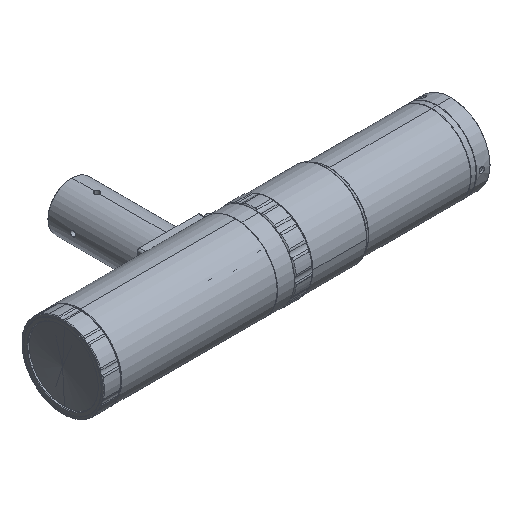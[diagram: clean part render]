
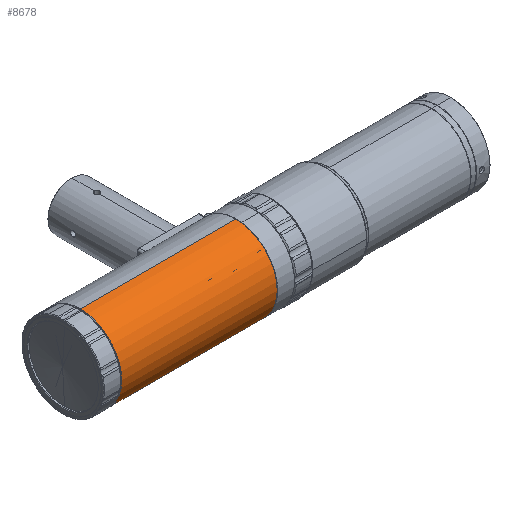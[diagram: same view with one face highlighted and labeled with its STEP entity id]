
A CAD part, isometric view. The second image highlights one B-rep face of the part: STEP entity #8678.
In plain terms, the highlighted cylindrical face has radius 19 mm (diameter 38 mm), a partial arc.
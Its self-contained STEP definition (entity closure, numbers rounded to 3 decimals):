
#77 = VECTOR ( 'NONE', #9744, 1000. ) ;
#86 = EDGE_CURVE ( 'NONE', #8816, #1531, #5522, .T. ) ;
#349 = DIRECTION ( 'NONE',  ( -1., 0., 0. ) ) ;
#363 = LINE ( 'NONE', #9832, #77 ) ;
#373 = VERTEX_POINT ( 'NONE', #2713 ) ;
#1044 = VERTEX_POINT ( 'NONE', #1988 ) ;
#1309 = CARTESIAN_POINT ( 'NONE',  ( 8.2, 0., 0. ) ) ;
#1531 = VERTEX_POINT ( 'NONE', #11500 ) ;
#1873 = AXIS2_PLACEMENT_3D ( 'NONE', #11596, #4760, #10721 ) ;
#1988 = CARTESIAN_POINT ( 'NONE',  ( 79.8, 0., -19. ) ) ;
#2146 = DIRECTION ( 'NONE',  ( -1., 0., 0. ) ) ;
#2576 = FACE_OUTER_BOUND ( 'NONE', #6514, .T. ) ;
#2713 = CARTESIAN_POINT ( 'NONE',  ( 79.8, 0., 19. ) ) ;
#4132 = AXIS2_PLACEMENT_3D ( 'NONE', #8991, #6242, #7157 ) ;
#4760 = DIRECTION ( 'NONE',  ( -1., 0., 0. ) ) ;
#5384 = CYLINDRICAL_SURFACE ( 'NONE', #4132, 19. ) ;
#5416 = LINE ( 'NONE', #6109, #8817 ) ;
#5447 = ORIENTED_EDGE ( 'NONE', *, *, #9433, .F. ) ;
#5522 = CIRCLE ( 'NONE', #5601, 19. ) ;
#5601 = AXIS2_PLACEMENT_3D ( 'NONE', #1309, #2146, #9786 ) ;
#5840 = CIRCLE ( 'NONE', #1873, 19. ) ;
#6109 = CARTESIAN_POINT ( 'NONE',  ( 79.8, 0., 19. ) ) ;
#6242 = DIRECTION ( 'NONE',  ( -1., 0., 0. ) ) ;
#6351 = CARTESIAN_POINT ( 'NONE',  ( 8.2, 0., -19. ) ) ;
#6410 = EDGE_CURVE ( 'NONE', #373, #1531, #5416, .T. ) ;
#6514 = EDGE_LOOP ( 'NONE', ( #5447, #9313, #10088, #7267 ) ) ;
#7157 = DIRECTION ( 'NONE',  ( 0., 0., 1. ) ) ;
#7267 = ORIENTED_EDGE ( 'NONE', *, *, #86, .F. ) ;
#8678 = ADVANCED_FACE ( 'NONE', ( #2576 ), #5384, .T. ) ;
#8816 = VERTEX_POINT ( 'NONE', #6351 ) ;
#8817 = VECTOR ( 'NONE', #349, 1000. ) ;
#8991 = CARTESIAN_POINT ( 'NONE',  ( 79.8, 0., 0. ) ) ;
#9313 = ORIENTED_EDGE ( 'NONE', *, *, #9988, .T. ) ;
#9433 = EDGE_CURVE ( 'NONE', #1044, #8816, #363, .T. ) ;
#9744 = DIRECTION ( 'NONE',  ( -1., 0., 0. ) ) ;
#9786 = DIRECTION ( 'NONE',  ( 0., 0., 1. ) ) ;
#9832 = CARTESIAN_POINT ( 'NONE',  ( 79.8, 0., -19. ) ) ;
#9988 = EDGE_CURVE ( 'NONE', #1044, #373, #5840, .T. ) ;
#10088 = ORIENTED_EDGE ( 'NONE', *, *, #6410, .T. ) ;
#10721 = DIRECTION ( 'NONE',  ( 0., 0., 1. ) ) ;
#11500 = CARTESIAN_POINT ( 'NONE',  ( 8.2, 0., 19. ) ) ;
#11596 = CARTESIAN_POINT ( 'NONE',  ( 79.8, 0., 0. ) ) ;
